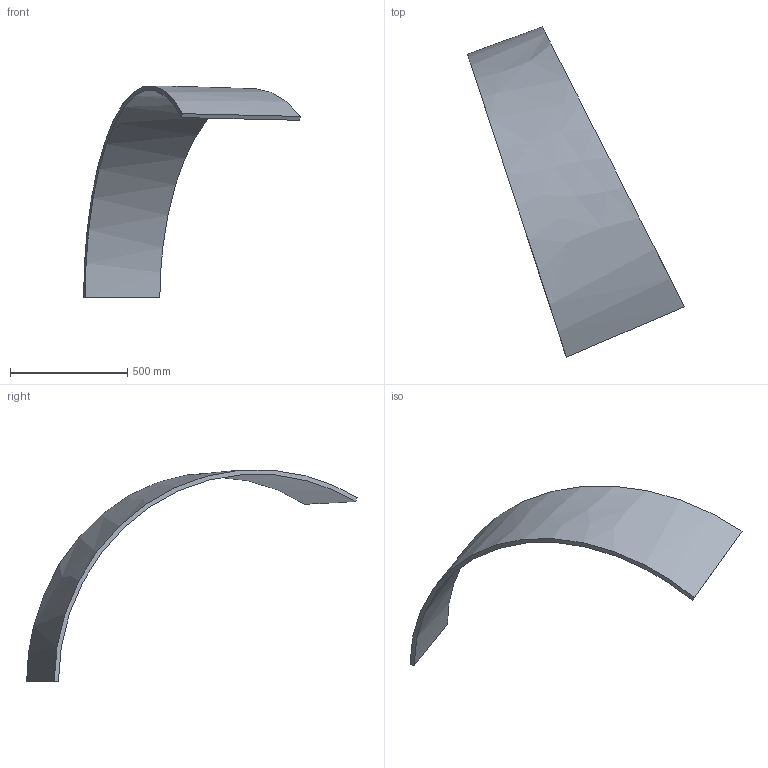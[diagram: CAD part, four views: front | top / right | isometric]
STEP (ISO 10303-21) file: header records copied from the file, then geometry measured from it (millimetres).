
FILE_DESCRIPTION (( 'STEP AP214' ), '1' );
FILE_NAME ('Section 11-C.STEP', '2025-01-09T19:43:25', ( '' ), ( '' ), 'SwSTEP 2.0', 'SolidWorks 2024', '' );
FILE_SCHEMA (( 'AUTOMOTIVE_DESIGN' ));
Length unit declared in the file: inch
Products named in the file (1): Section 11-C
Bounding box: 925.57 x 1411.89 x 903.81 mm (x, y, z)
Volume: 14929801.3 mm3; surface area: 1655188.9 mm2
Topology: 1 solids, 1 shells, 6 faces, 12 edges, 8 vertices
Faces by surface type: bspline 6
Entity records: 315 total; most frequent: CARTESIAN_POINT 201, ORIENTED_EDGE 24, EDGE_CURVE 12, B_SPLINE_CURVE_WITH_KNOTS 12, VERTEX_POINT 8, FACE_OUTER_BOUND 6, ADVANCED_FACE 6, EDGE_LOOP 6
